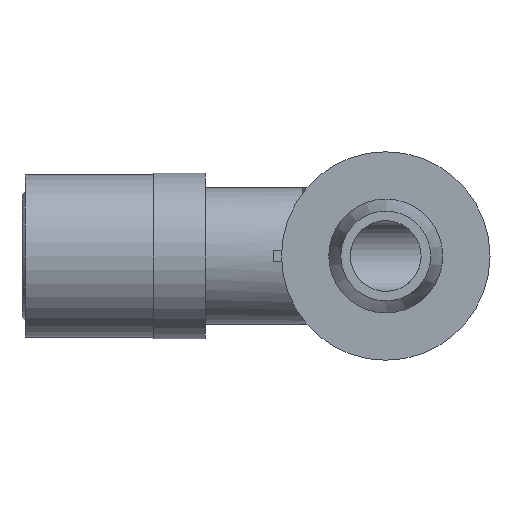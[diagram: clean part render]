
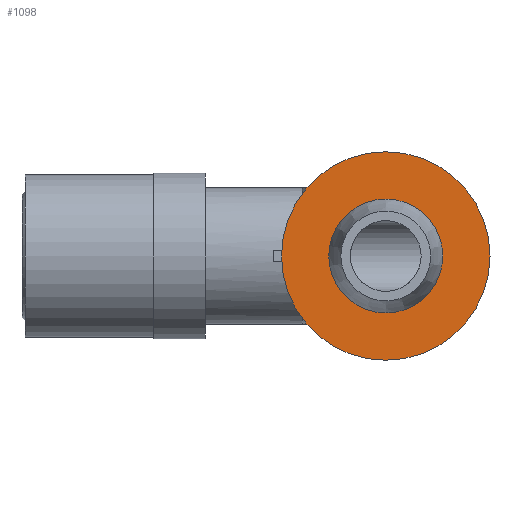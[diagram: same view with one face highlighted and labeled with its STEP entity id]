
A CAD part, front view. The second image highlights one B-rep face of the part: STEP entity #1098.
In plain terms, the highlighted planar face has unit normal (0, -1, 0).
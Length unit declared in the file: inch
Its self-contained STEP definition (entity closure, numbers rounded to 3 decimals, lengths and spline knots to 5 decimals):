
#180=PLANE('',#1244);
#381=ORIENTED_EDGE('',*,*,#612,.F.);
#382=ORIENTED_EDGE('',*,*,#611,.T.);
#611=EDGE_CURVE('',#727,#727,#810,.T.);
#612=EDGE_CURVE('',#728,#728,#811,.T.);
#727=VERTEX_POINT('',#1950);
#728=VERTEX_POINT('',#1953);
#810=CIRCLE('',#1243,0.43);
#811=CIRCLE('',#1245,0.235);
#885=EDGE_LOOP('',(#381));
#886=EDGE_LOOP('',(#382));
#987=FACE_BOUND('',#885,.T.);
#988=FACE_BOUND('',#886,.T.);
#1098=ADVANCED_FACE('',(#987,#988),#180,.F.);
#1243=AXIS2_PLACEMENT_3D('',#1949,#1545,#1546);
#1244=AXIS2_PLACEMENT_3D('',#1951,#1547,#1548);
#1245=AXIS2_PLACEMENT_3D('',#1952,#1549,#1550);
#1545=DIRECTION('',(0.,-1.,0.));
#1546=DIRECTION('',(0.,0.,-1.));
#1547=DIRECTION('',(0.,1.,0.));
#1548=DIRECTION('',(0.,0.,1.));
#1549=DIRECTION('',(0.,-1.,0.));
#1550=DIRECTION('',(0.,0.,-1.));
#1949=CARTESIAN_POINT('',(1.487,-0.6105,0.));
#1950=CARTESIAN_POINT('',(1.487,-0.6105,-0.43));
#1951=CARTESIAN_POINT('',(1.917,-0.6105,0.));
#1952=CARTESIAN_POINT('',(1.487,-0.6105,0.));
#1953=CARTESIAN_POINT('',(1.487,-0.6105,-0.235));
